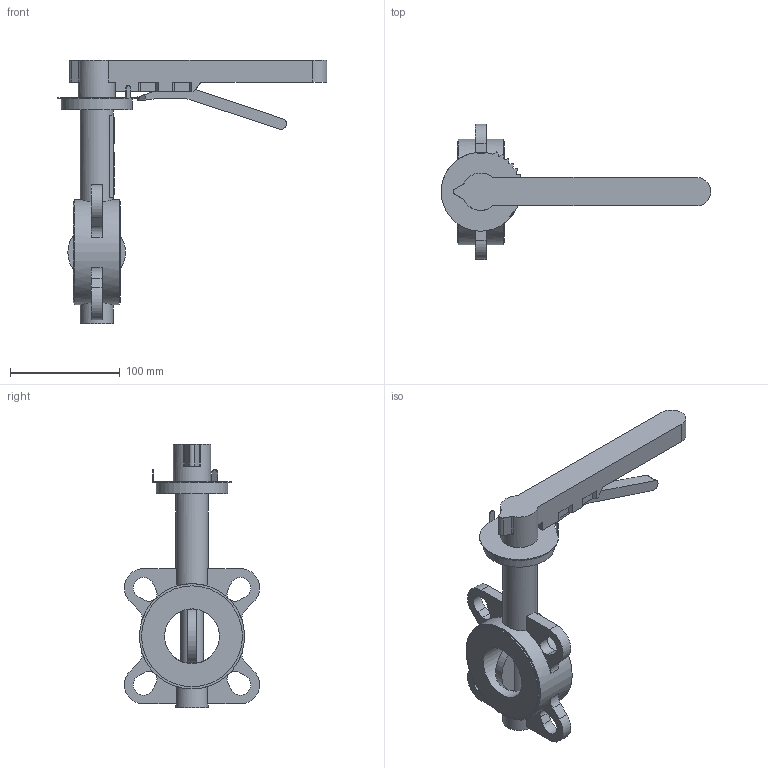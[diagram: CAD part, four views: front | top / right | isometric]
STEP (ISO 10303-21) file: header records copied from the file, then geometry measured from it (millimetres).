
FILE_DESCRIPTION(('STEP AP203'), '1');
FILE_NAME('Çàòâîð 017W.ZS DN50 PN10_16 ðóêîÿòêà', '', ('UNSPECIFIED'), ('UNSPECIFIED'), 'ASCON STEP Converter 1.6', 'ASCON Math Kernel', '');
FILE_SCHEMA(('CONFIG_CONTROL_DESIGN'));
Length unit declared in the file: millimetre
Bounding box: 245.97 x 123.33 x 240 mm (x, y, z)
Volume: 164924.6 mm3; surface area: 103836.1 mm2
Topology: 1 solids, 2 shells, 706 faces, 2094 edges, 1348 vertices
Faces by surface type: cylinder 466, plane 240
Full cylindrical faces by diameter (mm): 8 x4, 12.6 x1, 21 x1, 30 x2, 34 x1, 35 x1, 50 x1, 65 x1, 92 x2, 96 x1
Entity records: 30488 total; most frequent: CARTESIAN_POINT 5014, DIRECTION 4477, ORIENTED_EDGE 4097, EDGE_CURVE 2080, AXIS2_PLACEMENT_3D 1713, VERTEX_POINT 1348, LINE 1051, VECTOR 1051
